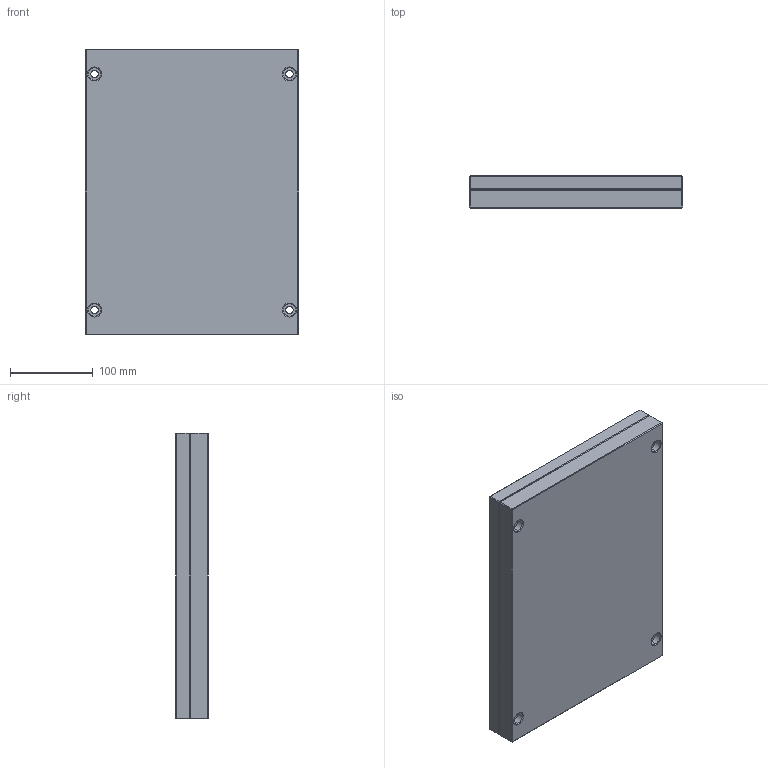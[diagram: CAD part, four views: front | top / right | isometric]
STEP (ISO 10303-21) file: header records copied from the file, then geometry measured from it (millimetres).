
FILE_DESCRIPTION (( 'STEP AP214' ), '1' );
FILE_NAME ('CPE-346x346.STEP', '2020-04-06T14:49:22', ( 'August' ), ( '' ), 'SwSTEP 2.0', 'SolidWorks 2018', '' );
FILE_SCHEMA (( 'AUTOMOTIVE_DESIGN' ));
Length unit declared in the file: millimetre
Products named in the file (1): CPE-346x346
Bounding box: 258 x 39 x 346 mm (x, y, z)
Volume: 3464813.7 mm3; surface area: 405161.3 mm2
Topology: 2 solids, 2 shells, 96 faces, 200 edges, 112 vertices
Faces by surface type: plane 56, cylinder 24, cone 16
Entity records: 2551 total; most frequent: DIRECTION 458, CARTESIAN_POINT 409, ORIENTED_EDGE 400, EDGE_CURVE 200, AXIS2_PLACEMENT_3D 161, LINE 136, VECTOR 136, EDGE_LOOP 116
